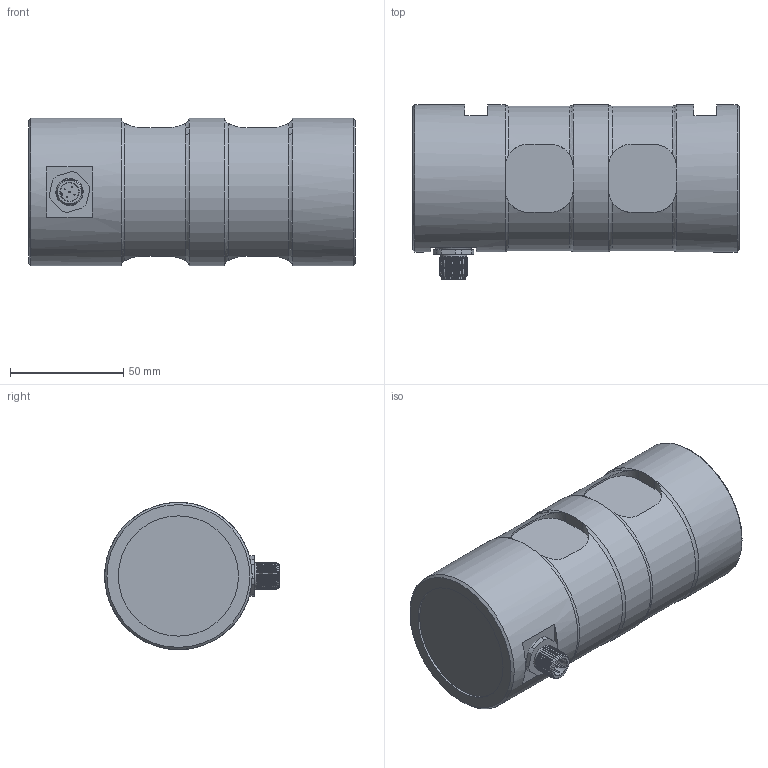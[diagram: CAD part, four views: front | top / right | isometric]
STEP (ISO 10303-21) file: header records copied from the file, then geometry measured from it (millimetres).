
FILE_DESCRIPTION(/* description */ ('Alibre Inc.'),/* implementation_level */ '2;1');
FILE_NAME(/* name */ 'export-5DC85AC8-DD1D-4EAD-AED1-A8FED8D77B49',/* time_stamp */ '2020-03-25T08:40:35+01:00',/* author */ (''),/* organization */ (''),/* preprocessor_version */ 'ST-DEVELOPER v17',/* originating_system */ 'Alibre',/* authorisation */ '');
FILE_SCHEMA (('CONFIG_CONTROL_DESIGN'));
Length unit declared in the file: centimetre
Bounding box: 144 x 77 x 65 mm (x, y, z)
Volume: 581851.9 mm3; surface area: 191650.4 mm2
Topology: 7 solids, 8 shells, 227 faces, 493 edges, 291 vertices
Faces by surface type: cylinder 76, cone 71, plane 70, torus 10
Full cylindrical faces by diameter (mm): 0.5 x10, 8 x2, 10 x1, 11 x1, 11.5 x1, 12 x21, 13 x2, 14.5 x1, 53 x1, 65 x3
Entity records: 5499 total; most frequent: CARTESIAN_POINT 1254, ORIENTED_EDGE 778, DIRECTION 697, EDGE_CURVE 383, EDGE_LOOP 343, FACE_BOUND 343, AXIS2_PLACEMENT_3D 326, VERTEX_POINT 276
